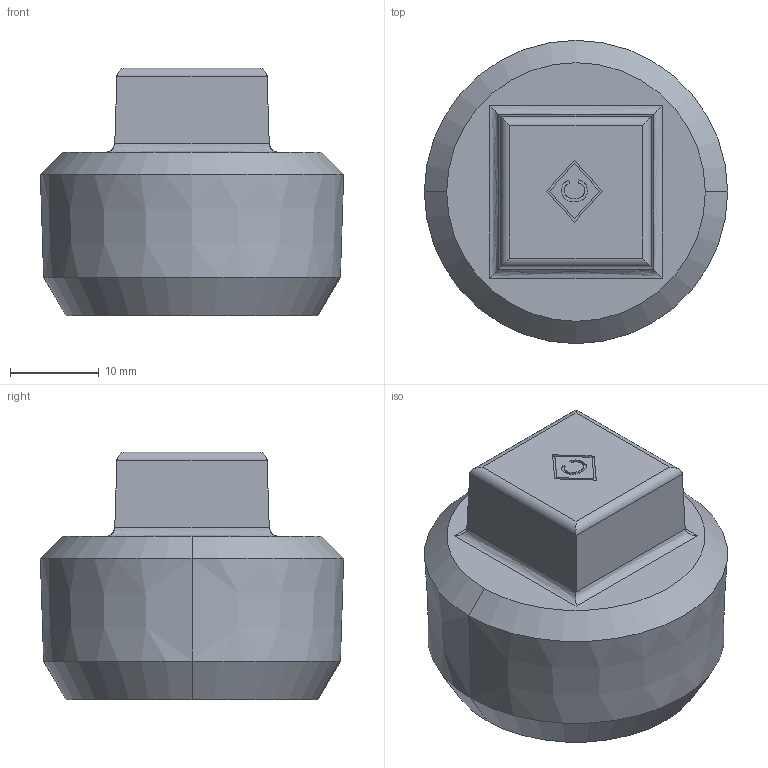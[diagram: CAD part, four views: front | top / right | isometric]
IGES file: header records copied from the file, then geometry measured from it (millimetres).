
Global section: file name: No Iges File Name specified; native system: AutoDesk Inventor R12.0; preprocessor: AutoDesk Inventor Iges Exporter R12.0; date: 20090914.165653; units: millimetre
Bounding box: 34.24 x 34.24 x 28 mm (x, y, z)
Volume: 12503.7 mm3; surface area: 4698 mm2
Topology: 1 solids, 1 shells, 48 faces, 108 edges, 66 vertices
Faces by surface type: plane 20, bspline 12, cone 6, revolution 6, cylinder 4
